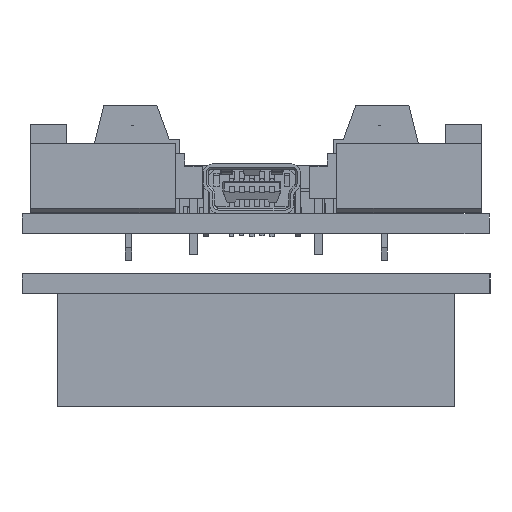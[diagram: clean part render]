
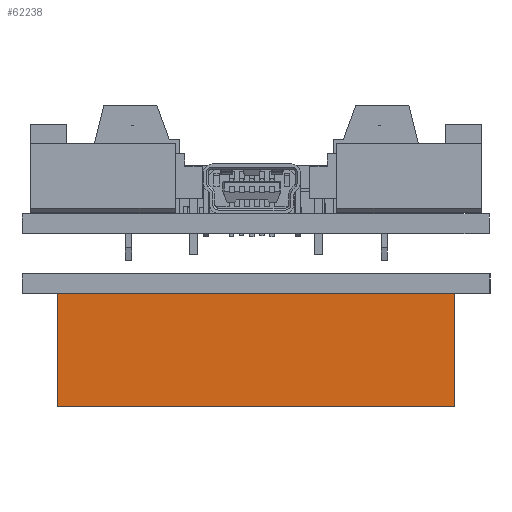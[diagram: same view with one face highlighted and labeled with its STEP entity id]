
A CAD part, left-side view. The second image highlights one B-rep face of the part: STEP entity #62238.
In plain terms, the highlighted planar face has unit normal (-1, 0, 0).
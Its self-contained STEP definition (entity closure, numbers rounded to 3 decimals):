
#62238 = ADVANCED_FACE('',(#62239),#62253,.F.);
#62239 = FACE_BOUND('',#62240,.F.);
#62240 = EDGE_LOOP('',(#62241,#62276,#62304,#62332));
#62241 = ORIENTED_EDGE('',*,*,#62242,.T.);
#62242 = EDGE_CURVE('',#62243,#62245,#62247,.T.);
#62243 = VERTEX_POINT('',#62244);
#62244 = CARTESIAN_POINT('',(-45.847,15.748,0.));
#62245 = VERTEX_POINT('',#62246);
#62246 = CARTESIAN_POINT('',(-45.847,15.748,8.966));
#62247 = SURFACE_CURVE('',#62248,(#62252,#62264),.PCURVE_S1.);
#62248 = LINE('',#62249,#62250);
#62249 = CARTESIAN_POINT('',(-45.847,15.748,0.));
#62250 = VECTOR('',#62251,1.);
#62251 = DIRECTION('',(0.,0.,1.));
#62252 = PCURVE('',#62253,#62258);
#62253 = PLANE('',#62254);
#62254 = AXIS2_PLACEMENT_3D('',#62255,#62256,#62257);
#62255 = CARTESIAN_POINT('',(-45.847,15.748,0.));
#62256 = DIRECTION('',(1.,0.,0.));
#62257 = DIRECTION('',(0.,-1.,0.));
#62258 = DEFINITIONAL_REPRESENTATION('',(#62259),#62263);
#62259 = LINE('',#62260,#62261);
#62260 = CARTESIAN_POINT('',(0.,0.));
#62261 = VECTOR('',#62262,1.);
#62262 = DIRECTION('',(0.,-1.));
#62263 = ( GEOMETRIC_REPRESENTATION_CONTEXT(2) 
PARAMETRIC_REPRESENTATION_CONTEXT() REPRESENTATION_CONTEXT('2D SPACE',''
  ) );
#62264 = PCURVE('',#62265,#62270);
#62265 = PLANE('',#62266);
#62266 = AXIS2_PLACEMENT_3D('',#62267,#62268,#62269);
#62267 = CARTESIAN_POINT('',(45.847,15.748,0.));
#62268 = DIRECTION('',(0.,-1.,0.));
#62269 = DIRECTION('',(-1.,0.,0.));
#62270 = DEFINITIONAL_REPRESENTATION('',(#62271),#62275);
#62271 = LINE('',#62272,#62273);
#62272 = CARTESIAN_POINT('',(91.694,0.));
#62273 = VECTOR('',#62274,1.);
#62274 = DIRECTION('',(0.,-1.));
#62275 = ( GEOMETRIC_REPRESENTATION_CONTEXT(2) 
PARAMETRIC_REPRESENTATION_CONTEXT() REPRESENTATION_CONTEXT('2D SPACE',''
  ) );
#62276 = ORIENTED_EDGE('',*,*,#62277,.T.);
#62277 = EDGE_CURVE('',#62245,#62278,#62280,.T.);
#62278 = VERTEX_POINT('',#62279);
#62279 = CARTESIAN_POINT('',(-45.847,-15.748,8.966));
#62280 = SURFACE_CURVE('',#62281,(#62285,#62292),.PCURVE_S1.);
#62281 = LINE('',#62282,#62283);
#62282 = CARTESIAN_POINT('',(-45.847,15.748,8.966));
#62283 = VECTOR('',#62284,1.);
#62284 = DIRECTION('',(0.,-1.,0.));
#62285 = PCURVE('',#62253,#62286);
#62286 = DEFINITIONAL_REPRESENTATION('',(#62287),#62291);
#62287 = LINE('',#62288,#62289);
#62288 = CARTESIAN_POINT('',(0.,-8.966));
#62289 = VECTOR('',#62290,1.);
#62290 = DIRECTION('',(1.,0.));
#62291 = ( GEOMETRIC_REPRESENTATION_CONTEXT(2) 
PARAMETRIC_REPRESENTATION_CONTEXT() REPRESENTATION_CONTEXT('2D SPACE',''
  ) );
#62292 = PCURVE('',#62293,#62298);
#62293 = PLANE('',#62294);
#62294 = AXIS2_PLACEMENT_3D('',#62295,#62296,#62297);
#62295 = CARTESIAN_POINT('',(-45.847,15.748,8.966));
#62296 = DIRECTION('',(0.,0.,-1.));
#62297 = DIRECTION('',(-1.,0.,0.));
#62298 = DEFINITIONAL_REPRESENTATION('',(#62299),#62303);
#62299 = LINE('',#62300,#62301);
#62300 = CARTESIAN_POINT('',(0.,0.));
#62301 = VECTOR('',#62302,1.);
#62302 = DIRECTION('',(0.,-1.));
#62303 = ( GEOMETRIC_REPRESENTATION_CONTEXT(2) 
PARAMETRIC_REPRESENTATION_CONTEXT() REPRESENTATION_CONTEXT('2D SPACE',''
  ) );
#62304 = ORIENTED_EDGE('',*,*,#62305,.F.);
#62305 = EDGE_CURVE('',#62306,#62278,#62308,.T.);
#62306 = VERTEX_POINT('',#62307);
#62307 = CARTESIAN_POINT('',(-45.847,-15.748,0.));
#62308 = SURFACE_CURVE('',#62309,(#62313,#62320),.PCURVE_S1.);
#62309 = LINE('',#62310,#62311);
#62310 = CARTESIAN_POINT('',(-45.847,-15.748,0.));
#62311 = VECTOR('',#62312,1.);
#62312 = DIRECTION('',(0.,0.,1.));
#62313 = PCURVE('',#62253,#62314);
#62314 = DEFINITIONAL_REPRESENTATION('',(#62315),#62319);
#62315 = LINE('',#62316,#62317);
#62316 = CARTESIAN_POINT('',(31.496,0.));
#62317 = VECTOR('',#62318,1.);
#62318 = DIRECTION('',(0.,-1.));
#62319 = ( GEOMETRIC_REPRESENTATION_CONTEXT(2) 
PARAMETRIC_REPRESENTATION_CONTEXT() REPRESENTATION_CONTEXT('2D SPACE',''
  ) );
#62320 = PCURVE('',#62321,#62326);
#62321 = PLANE('',#62322);
#62322 = AXIS2_PLACEMENT_3D('',#62323,#62324,#62325);
#62323 = CARTESIAN_POINT('',(-45.847,-15.748,0.));
#62324 = DIRECTION('',(0.,1.,0.));
#62325 = DIRECTION('',(1.,0.,0.));
#62326 = DEFINITIONAL_REPRESENTATION('',(#62327),#62331);
#62327 = LINE('',#62328,#62329);
#62328 = CARTESIAN_POINT('',(0.,0.));
#62329 = VECTOR('',#62330,1.);
#62330 = DIRECTION('',(0.,-1.));
#62331 = ( GEOMETRIC_REPRESENTATION_CONTEXT(2) 
PARAMETRIC_REPRESENTATION_CONTEXT() REPRESENTATION_CONTEXT('2D SPACE',''
  ) );
#62332 = ORIENTED_EDGE('',*,*,#62333,.F.);
#62333 = EDGE_CURVE('',#62243,#62306,#62334,.T.);
#62334 = SURFACE_CURVE('',#62335,(#62339,#62346),.PCURVE_S1.);
#62335 = LINE('',#62336,#62337);
#62336 = CARTESIAN_POINT('',(-45.847,15.748,0.));
#62337 = VECTOR('',#62338,1.);
#62338 = DIRECTION('',(0.,-1.,0.));
#62339 = PCURVE('',#62253,#62340);
#62340 = DEFINITIONAL_REPRESENTATION('',(#62341),#62345);
#62341 = LINE('',#62342,#62343);
#62342 = CARTESIAN_POINT('',(0.,0.));
#62343 = VECTOR('',#62344,1.);
#62344 = DIRECTION('',(1.,0.));
#62345 = ( GEOMETRIC_REPRESENTATION_CONTEXT(2) 
PARAMETRIC_REPRESENTATION_CONTEXT() REPRESENTATION_CONTEXT('2D SPACE',''
  ) );
#62346 = PCURVE('',#62347,#62352);
#62347 = PLANE('',#62348);
#62348 = AXIS2_PLACEMENT_3D('',#62349,#62350,#62351);
#62349 = CARTESIAN_POINT('',(-45.847,15.748,0.));
#62350 = DIRECTION('',(0.,0.,-1.));
#62351 = DIRECTION('',(-1.,0.,0.));
#62352 = DEFINITIONAL_REPRESENTATION('',(#62353),#62357);
#62353 = LINE('',#62354,#62355);
#62354 = CARTESIAN_POINT('',(0.,0.));
#62355 = VECTOR('',#62356,1.);
#62356 = DIRECTION('',(0.,-1.));
#62357 = ( GEOMETRIC_REPRESENTATION_CONTEXT(2) 
PARAMETRIC_REPRESENTATION_CONTEXT() REPRESENTATION_CONTEXT('2D SPACE',''
  ) );
